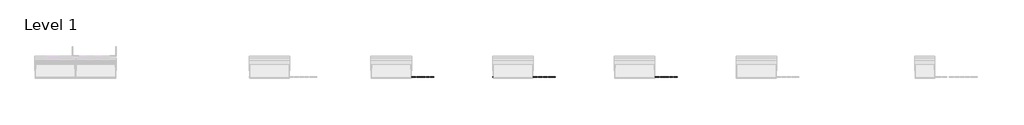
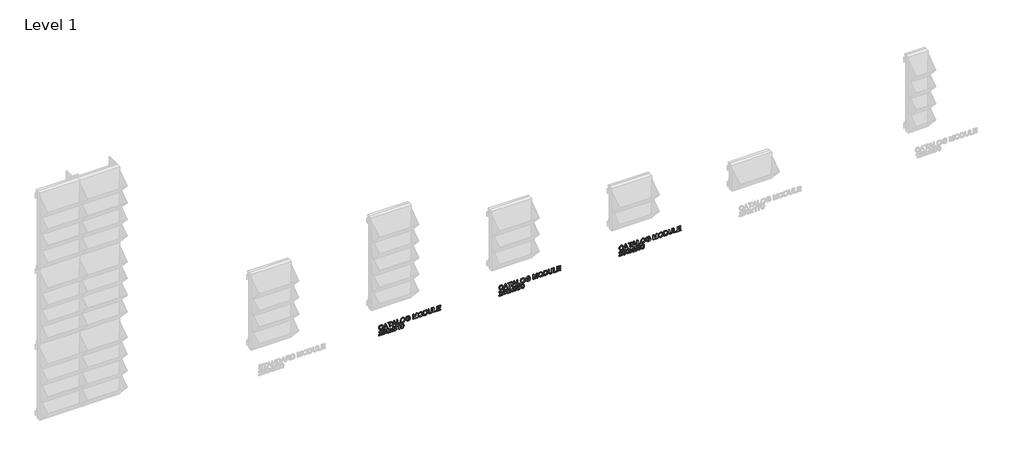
# One storey, part 3 of 5: 3 proxies.
"""IFC4 building model written with IfcOpenShell, lengths in millimetres."""

from ifc_helpers import new_model, si_unit, frame, origin, place, context, project, spatial, polyline, outline, extrude, element, save

model = new_model("IFC4")

# Units and contexts
model_context = context("Model", 3, world=origin())
ifc_project = project(units=[si_unit("LENGTHUNIT", "METRE", prefix="MILLI")], contexts=[model_context])

# Site, building, storey
site = spatial("IfcSite", under=ifc_project)
building = spatial("IfcBuilding", under=site)
storey = spatial("IfcBuildingStorey", under=building, Name="Level 1", Elevation=0.0)

# Proxies
placement = place(None, origin())
element("IfcBuildingElementProxy", 1, Name="30mm Arial", ObjectType="30mm Arial", at=placement, inside=storey, context=model_context, shape_type="SweptSolid", body=[
    extrude(outline(polyline([(-74.1059821, 12.4481325), (-79.6536426, 9.2512379), (-81.5224832, 3.4865271), (-80.1502833, -1.7116455), (-76.0042532, -5.2506703), (-69.5148148, -6.3874257), (-63.9156509, -5.4272537), (-59.5893586, -2.0979216), (-57.9780355, 3.7955479), (-59.4311694, 8.8870347), (-64.0628037, 11.9772435), (-63.1651716, 15.7443551), (-56.558011, 11.4879604), (-54.2109238, 3.9427007), (-56.0245821, -3.2972169), (-61.3331193, -8.3703096), (-69.5221725, -10.1545373), (-77.5787882, -8.5763236), (-83.3103897, -3.9777986), (-85.2895948, 3.8617667), (-82.6739538, 11.7491567), (-75.0771906, 16.2152441), (-74.1059821, 12.4481325)])), frame((0.0, -152.7156773, 0.0), z_axis=(0.0, 1.0, 0.0), x_axis=(0.0, 0.0, 1.0)), (0.0, 0.0, 1.0), 5.0),
    extrude(outline(polyline([(-84.8187058, 17.8854283), (-84.8187058, 21.8659115), (-75.4009268, 25.309287), (-75.4009268, 37.7216255), (-84.8187058, 41.1723586), (-84.8187058, 45.1528418), (-54.6818128, 33.1231006), (-54.6818128, 29.9151696), (-84.8187058, 17.8854283)]), holes=[polyline([(-71.6338151, 26.6925233), (-63.5771994, 29.6429369), (-58.4489244, 31.5191351), (-64.2246718, 33.6307777), (-71.6338151, 36.3457469), (-71.6338151, 26.6925233)])]), frame((0.0, -152.7156773, 0.0), z_axis=(0.0, 1.0, 0.0), x_axis=(0.0, 0.0, 1.0)), (0.0, 0.0, 1.0), 5.0),
    extrude(outline(polyline([(-84.8187058, 56.7116941), (-84.8187058, 60.4788057), (-58.4489244, 60.4788057), (-58.4489244, 70.3674738), (-54.6818128, 70.3674738), (-54.6818128, 46.8230261), (-58.4489244, 46.8230261), (-58.4489244, 56.7116941), (-84.8187058, 56.7116941)])), frame((0.0, -152.7156773, 0.0), z_axis=(0.0, 1.0, 0.0), x_axis=(0.0, 0.0, 1.0)), (0.0, 0.0, 1.0), 5.0),
    extrude(outline(polyline([(-84.8187058, 71.0958801), (-84.8187058, 75.0763633), (-75.4009268, 78.5197388), (-75.4009268, 90.9320773), (-84.8187058, 94.3828104), (-84.8187058, 98.3632936), (-54.6818128, 86.3335524), (-54.6818128, 83.1256214), (-84.8187058, 71.0958801)]), holes=[polyline([(-71.6338151, 79.9029751), (-63.5771994, 82.8533887), (-58.4489244, 84.7295869), (-64.2246718, 86.8412295), (-71.6338151, 89.5561986), (-71.6338151, 79.9029751)])]), frame((0.0, -152.7156773, 0.0), z_axis=(0.0, 1.0, 0.0), x_axis=(0.0, 0.0, 1.0)), (0.0, 0.0, 1.0), 5.0),
    extrude(outline(polyline([(-84.8187058, 102.3879226), (-84.8187058, 121.2234808), (-81.0515942, 121.2234808), (-81.0515942, 106.1550343), (-54.6818128, 106.1550343), (-54.6818128, 102.3879226), (-84.8187058, 102.3879226)])), frame((0.0, -152.7156773, 0.0), z_axis=(0.0, 1.0, 0.0), x_axis=(0.0, 0.0, 1.0)), (0.0, 0.0, 1.0), 5.0),
    extrude(outline(polyline([(-70.1475719, 124.0488145), (-77.6486858, 125.7705023), (-83.2404921, 130.8325585), (-85.2895948, 138.4109276), (-83.4354695, 145.7060276), (-77.9761007, 150.9299519), (-69.8017628, 152.7730407), (-61.7377895, 151.0219224), (-56.1974866, 145.9304356), (-54.2109238, 138.4330005), (-58.4415668, 128.0660859), (-70.1475719, 124.0488145)]), holes=[polyline([(-70.1843601, 127.8159261), (-60.7923327, 130.9576384), (-57.9780355, 138.4550734), (-59.438527, 143.9843398), (-63.5551265, 147.7256997), (-69.7723322, 149.0059291), (-78.461705, 146.0150484), (-81.5224832, 138.3888547), (-78.4911355, 130.8288797), (-70.1843601, 127.8159261)])]), frame((0.0, -152.7156773, 0.0), z_axis=(0.0, 1.0, 0.0), x_axis=(0.0, 0.0, 1.0)), (0.0, 0.0, 1.0), 5.0),
    extrude(outline(polyline([(-73.046482, 172.0794878), (-73.046482, 180.555489), (-78.4911355, 180.555489), (-80.5549535, 176.7405527), (-81.5224832, 171.5865259), (-80.238575, 165.843888), (-76.3095953, 161.7236096), (-69.7429017, 160.307264), (-63.8273592, 161.4844863), (-60.9247703, 163.4232245), (-58.7910547, 166.7047319), (-57.9780355, 171.5276648), (-58.7321936, 175.7619866), (-60.7408293, 178.6976849), (-64.2246718, 180.4156938), (-63.2461056, 183.8884998), (-58.2613046, 181.6113103), (-55.2814605, 177.4799955), (-54.2109238, 171.5865259), (-56.0576915, 163.6549901), (-61.7046801, 158.3758835), (-69.8974121, 156.5401523), (-77.909882, 158.3832411), (-83.3950025, 163.8426099), (-85.2895948, 171.8881892), (-84.0976571, 178.2782994), (-80.5439171, 184.3226006), (-69.2793704, 184.3226006), (-69.2793704, 172.0794878), (-73.046482, 172.0794878)])), frame((0.0, -152.7156773, 0.0), z_axis=(0.0, 1.0, 0.0), x_axis=(0.0, 0.0, 1.0)), (0.0, 0.0, 1.0), 5.0),
    extrude(outline(polyline([(-84.8187058, 202.2163808), (-84.8187058, 205.9834925), (-58.4489244, 205.9834925), (-84.8187058, 213.5545039), (-84.8187058, 218.660706), (-58.4489244, 226.2317175), (-84.8187058, 226.2317175), (-84.8187058, 229.9988291), (-54.6818128, 229.9988291), (-54.6818128, 223.5167484), (-75.5554372, 217.4540531), (-80.3599761, 216.107605), (-75.9233192, 214.8641638), (-54.6818128, 208.6984616), (-54.6818128, 202.2163808), (-84.8187058, 202.2163808)])), frame((0.0, -152.7156773, 0.0), z_axis=(0.0, 1.0, 0.0), x_axis=(0.0, 0.0, 1.0)), (0.0, 0.0, 1.0), 5.0),
    extrude(outline(polyline([(-70.1475719, 235.1786076), (-77.6486858, 236.9002954), (-83.2404921, 241.9623516), (-85.2895948, 249.5407207), (-83.4354695, 256.8358207), (-77.9761007, 262.059745), (-69.8017628, 263.9028338), (-61.7377895, 262.1517155), (-56.1974866, 257.0602287), (-54.2109238, 249.5627936), (-58.4415668, 239.195879), (-70.1475719, 235.1786076)]), holes=[polyline([(-70.1843601, 238.9457192), (-60.7923327, 242.0874315), (-57.9780355, 249.5848665), (-59.438527, 255.1141329), (-63.5551265, 258.8554928), (-69.7723322, 260.1357222), (-78.461705, 257.1448415), (-81.5224832, 249.5186478), (-78.4911355, 241.9586728), (-70.1843601, 238.9457192)])]), frame((0.0, -152.7156773, 0.0), z_axis=(0.0, 1.0, 0.0), x_axis=(0.0, 0.0, 1.0)), (0.0, 0.0, 1.0), 5.0),
    extrude(outline(polyline([(-84.8187058, 269.0826123), (-84.8187058, 279.979277), (-84.3036711, 284.8242829), (-82.7916761, 288.4258476), (-80.0583128, 291.1776049), (-75.6694806, 293.2377441), (-69.5883912, 294.0397268), (-62.42205, 292.8551468), (-57.271702, 289.2866915), (-55.1159136, 284.8573922), (-54.6818128, 279.4789575), (-54.6818128, 269.0826123), (-84.8187058, 269.0826123)]), holes=[polyline([(-81.0515942, 272.8497239), (-58.4489244, 272.8497239), (-58.4489244, 279.4127387), (-59.0522509, 284.7543853), (-62.3926194, 288.6649709), (-69.5295301, 290.2726152), (-75.2280222, 289.4522384), (-78.9693821, 287.1603335), (-80.5071289, 284.3644304), (-81.0515942, 279.5157457), (-81.0515942, 272.8497239)])]), frame((0.0, -152.7156773, 0.0), z_axis=(0.0, 1.0, 0.0), x_axis=(0.0, 0.0, 1.0)), (0.0, 0.0, 1.0), 5.0),
    extrude(outline(polyline([(-54.6818128, 318.9968414), (-71.9354784, 318.9968414), (-79.543278, 317.0912127), (-81.5224832, 310.7121389), (-80.5218441, 306.2828396), (-77.6781163, 303.7297386), (-71.9354784, 302.986617), (-54.6818128, 302.986617), (-54.6818128, 299.2195053), (-72.0679159, 299.2195053), (-79.6131756, 300.3636183), (-83.8327821, 304.1822335), (-85.2895948, 311.0653056), (-83.6157317, 318.0550635), (-79.2747242, 321.7412411), (-72.0679159, 322.763953), (-54.6818128, 322.763953), (-54.6818128, 318.9968414)])), frame((0.0, -152.7156773, 0.0), z_axis=(0.0, 1.0, 0.0), x_axis=(0.0, 0.0, 1.0)), (0.0, 0.0, 1.0), 5.0),
    extrude(outline(polyline([(-84.8187058, 329.3563984), (-84.8187058, 348.1919565), (-81.0515942, 348.1919565), (-81.0515942, 333.12351), (-54.6818128, 333.12351), (-54.6818128, 329.3563984), (-84.8187058, 329.3563984)])), frame((0.0, -152.7156773, 0.0), z_axis=(0.0, 1.0, 0.0), x_axis=(0.0, 0.0, 1.0)), (0.0, 0.0, 1.0), 5.0),
    extrude(outline(polyline([(-84.8187058, 352.4299571), (-84.8187058, 374.5617379), (-81.0515942, 374.5617379), (-81.0515942, 356.1970688), (-71.1629262, 356.1970688), (-71.1629262, 373.1490711), (-67.3958146, 373.1490711), (-67.3958146, 356.1970688), (-58.4489244, 356.1970688), (-58.4489244, 374.090849), (-54.6818128, 374.090849), (-54.6818128, 352.4299571), (-84.8187058, 352.4299571)])), frame((0.0, -152.7156773, 0.0), z_axis=(0.0, 1.0, 0.0), x_axis=(0.0, 0.0, 1.0)), (0.0, 0.0, 1.0), 5.0),
    extrude(outline(polyline([(-117.6440396, 9.1519098), (-117.6440396, -5.6443041), (-115.7273744, -3.9446892), (-112.1037367, 0.3889607), (-106.9423523, 5.7857895), (-103.2488171, 8.0114756), (-99.6766829, 8.6810208), (-93.687564, 6.1978174), (-91.2742582, -0.5454596), (-93.4447619, -7.2666637), (-99.7502593, -10.1545373), (-100.2211483, -6.3874257), (-96.4172484, -4.8018543), (-95.0413698, -0.6263937), (-96.4503578, 3.3798413), (-99.9047698, 4.9139092), (-104.1722009, 3.2878708), (-110.4482677, -3.2162829), (-114.815027, -7.9325301), (-118.8139043, -10.2207561), (-121.4111512, -10.6254263), (-121.4111512, 9.1519098), (-117.6440396, 9.1519098)])), frame((0.0, -152.7156773, 0.0), z_axis=(0.0, 1.0, 0.0), x_axis=(0.0, 0.0, 1.0)), (0.0, 0.0, 1.0), 5.0),
    extrude(outline(polyline([(-113.406039, 12.9190214), (-119.5607048, 15.8583986), (-121.8820402, 22.5060262), (-118.269439, 30.3345551), (-111.2796811, 32.6963575), (-104.334069, 30.0733588), (-101.6338151, 23.6317451), (-103.8116766, 18.1208728), (-95.5122587, 19.732196), (-95.5122587, 31.2836906), (-91.7451471, 31.2836906), (-91.7451471, 16.686133), (-107.2844826, 13.3899104), (-107.7553715, 17.157022), (-106.0557567, 19.2723435), (-105.4009268, 22.5796026), (-107.0416805, 27.3510321), (-111.5151255, 28.9292458), (-116.3086279, 27.2443463), (-118.1149285, 22.5207415), (-116.8163051, 18.5844041), (-112.93515, 16.686133), (-113.406039, 12.9190214)])), frame((0.0, -152.7156773, 0.0), z_axis=(0.0, 1.0, 0.0), x_axis=(0.0, 0.0, 1.0)), (0.0, 0.0, 1.0), 5.0),
    extrude(outline(polyline([(-106.5855068, 35.9925801), (-119.0125606, 38.9944972), (-121.8820402, 45.8812482), (-120.23025, 51.3957993), (-115.2196972, 54.6736279), (-106.5855068, 55.7699162), (-99.5037784, 55.0856557), (-95.0450486, 53.3198221), (-92.2454666, 50.2811168), (-91.2742582, 45.8812482), (-92.9150119, 40.38877), (-97.9145282, 37.099905), (-106.5855068, 35.9925801)]), holes=[polyline([(-106.5781492, 39.7596918), (-97.0573631, 41.5843865), (-95.0413698, 45.8371023), (-97.3295958, 50.2958321), (-106.5781492, 52.0028046), (-115.9260307, 50.236971), (-118.1149285, 45.8812482), (-115.9333883, 41.5255254), (-106.5781492, 39.7596918)])]), frame((0.0, -152.7156773, 0.0), z_axis=(0.0, 1.0, 0.0), x_axis=(0.0, 0.0, 1.0)), (0.0, 0.0, 1.0), 5.0),
    extrude(outline(polyline([(-121.4111512, 57.653472), (-121.4111512, 62.1857782), (-114.7230565, 68.7561506), (-121.4111512, 73.3693909), (-121.4111512, 77.901697), (-110.2863997, 70.2350363), (-99.2793704, 78.1960026), (-99.2793704, 73.6636965), (-105.0330448, 69.4992723), (-107.0784687, 68.0203866), (-104.5768711, 66.3134142), (-99.2793704, 62.6566672), (-99.2793704, 58.124361), (-110.2863997, 65.7027301), (-121.4111512, 57.653472)])), frame((0.0, -152.7156773, 0.0), z_axis=(0.0, 1.0, 0.0), x_axis=(0.0, 0.0, 1.0)), (0.0, 0.0, 1.0), 5.0),
    extrude(outline(polyline([(-99.2793704, 99.5625889), (-93.4006161, 96.781401), (-91.2742582, 90.8290703), (-94.710276, 83.0814755), (-107.3433437, 79.7852529), (-118.4975258, 82.7540606), (-121.8820402, 90.4317578), (-120.6054896, 95.3687342), (-116.9266697, 98.7900367), (-111.7284971, 100.0334779), (-104.7902427, 97.3920851), (-102.1047041, 90.9909384), (-103.086949, 86.8743389), (-106.0925449, 83.5523645), (-99.3786985, 84.6229011), (-95.9537171, 87.1943962), (-95.0413698, 90.5936259), (-96.6085471, 94.3680951), (-99.7502593, 95.7954773), (-99.2793704, 99.5625889)]), holes=[polyline([(-111.669636, 83.5523645), (-107.4721024, 85.4248838), (-105.8718157, 89.9829418), (-107.4721024, 94.5998608), (-111.853577, 96.2663662), (-116.430029, 94.5777879), (-118.1149285, 90.1374522), (-117.3019093, 86.7419014), (-114.9327493, 84.4242448), (-111.669636, 83.5523645)])]), frame((0.0, -152.7156773, 0.0), z_axis=(0.0, 1.0, 0.0), x_axis=(0.0, 0.0, 1.0)), (0.0, 0.0, 1.0), 5.0),
    extrude(outline(polyline([(-121.4111512, 117.4563692), (-91.2742582, 117.4563692), (-91.2742582, 115.028348), (-95.2841719, 111.676943), (-98.8084814, 106.1550343), (-102.3695791, 106.1550343), (-100.4676292, 110.1208022), (-97.9255646, 113.6892575), (-121.4111512, 113.6892575), (-121.4111512, 117.4563692)])), frame((0.0, -152.7156773, 0.0), z_axis=(0.0, 1.0, 0.0), x_axis=(0.0, 0.0, 1.0)), (0.0, 0.0, 1.0), 5.0),
    extrude(outline(polyline([(-106.5855068, 126.4032593), (-119.0125606, 129.4051764), (-121.8820402, 136.2919273), (-120.23025, 141.8064784), (-115.2196972, 145.084307), (-106.5855068, 146.1805953), (-99.5037784, 145.4963348), (-95.0450486, 143.7305013), (-92.2454666, 140.691796), (-91.2742582, 136.2919273), (-92.9150119, 130.7994491), (-97.9145282, 127.5105841), (-106.5855068, 126.4032593)]), holes=[polyline([(-106.5781492, 130.1703709), (-97.0573631, 131.9950656), (-95.0413698, 136.2477815), (-97.3295958, 140.7065113), (-106.5781492, 142.4134837), (-115.9260307, 140.6476501), (-118.1149285, 136.2919273), (-115.9333883, 131.9362045), (-106.5781492, 130.1703709)])]), frame((0.0, -152.7156773, 0.0), z_axis=(0.0, 1.0, 0.0), x_axis=(0.0, 0.0, 1.0)), (0.0, 0.0, 1.0), 5.0),
])
element("IfcBuildingElementProxy", 2, Name="30mm Arial", ObjectType="30mm Arial", at=placement, inside=storey, context=model_context, shape_type="SweptSolid", body=[
    extrude(outline(polyline([(-74.1059821, 762.4481325), (-79.6536426, 759.251238), (-81.5224832, 753.4865271), (-80.1502833, 748.2883545), (-76.0042532, 744.7493297), (-69.5148148, 743.6125744), (-63.9156509, 744.5727464), (-59.5893586, 747.9020784), (-57.9780355, 753.795548), (-59.4311694, 758.8870348), (-64.0628037, 761.9772436), (-63.1651716, 765.7443552), (-56.558011, 761.4879605), (-54.2109238, 753.9427008), (-56.0245821, 746.7027831), (-61.3331193, 741.6296904), (-69.5221725, 739.8454627), (-77.5787882, 741.4236765), (-83.3103897, 746.0222014), (-85.2895948, 753.8617668), (-82.6739538, 761.7491567), (-75.0771906, 766.2152442), (-74.1059821, 762.4481325)])), frame((0.0, -152.7156773, 0.0), z_axis=(0.0, 1.0, 0.0), x_axis=(0.0, 0.0, 1.0)), (0.0, 0.0, 1.0), 5.0),
    extrude(outline(polyline([(-84.8187058, 767.8854284), (-84.8187058, 771.8659116), (-75.4009268, 775.3092871), (-75.4009268, 787.7216256), (-84.8187058, 791.1723587), (-84.8187058, 795.1528419), (-54.6818128, 783.1231007), (-54.6818128, 779.9151697), (-84.8187058, 767.8854284)]), holes=[polyline([(-71.6338151, 776.6925234), (-63.5771994, 779.642937), (-58.4489244, 781.5191352), (-64.2246718, 783.6307778), (-71.6338151, 786.3457469), (-71.6338151, 776.6925234)])]), frame((0.0, -152.7156773, 0.0), z_axis=(0.0, 1.0, 0.0), x_axis=(0.0, 0.0, 1.0)), (0.0, 0.0, 1.0), 5.0),
    extrude(outline(polyline([(-84.8187058, 806.7116942), (-84.8187058, 810.4788058), (-58.4489244, 810.4788058), (-58.4489244, 820.3674739), (-54.6818128, 820.3674739), (-54.6818128, 796.8230262), (-58.4489244, 796.8230262), (-58.4489244, 806.7116942), (-84.8187058, 806.7116942)])), frame((0.0, -152.7156773, 0.0), z_axis=(0.0, 1.0, 0.0), x_axis=(0.0, 0.0, 1.0)), (0.0, 0.0, 1.0), 5.0),
    extrude(outline(polyline([(-84.8187058, 821.0958802), (-84.8187058, 825.0763634), (-75.4009268, 828.5197389), (-75.4009268, 840.9320774), (-84.8187058, 844.3828105), (-84.8187058, 848.3632937), (-54.6818128, 836.3335524), (-54.6818128, 833.1256214), (-84.8187058, 821.0958802)]), holes=[polyline([(-71.6338151, 829.9029752), (-63.5771994, 832.8533888), (-58.4489244, 834.7295869), (-64.2246718, 836.8412296), (-71.6338151, 839.5561987), (-71.6338151, 829.9029752)])]), frame((0.0, -152.7156773, 0.0), z_axis=(0.0, 1.0, 0.0), x_axis=(0.0, 0.0, 1.0)), (0.0, 0.0, 1.0), 5.0),
    extrude(outline(polyline([(-84.8187058, 852.3879227), (-84.8187058, 871.2234809), (-81.0515942, 871.2234809), (-81.0515942, 856.1550343), (-54.6818128, 856.1550343), (-54.6818128, 852.3879227), (-84.8187058, 852.3879227)])), frame((0.0, -152.7156773, 0.0), z_axis=(0.0, 1.0, 0.0), x_axis=(0.0, 0.0, 1.0)), (0.0, 0.0, 1.0), 5.0),
    extrude(outline(polyline([(-70.1475719, 874.0488146), (-77.6486858, 875.7705023), (-83.2404921, 880.8325586), (-85.2895948, 888.4109277), (-83.4354695, 895.7060276), (-77.9761007, 900.929952), (-69.8017628, 902.7730408), (-61.7377895, 901.0219225), (-56.1974866, 895.9304357), (-54.2109238, 888.4330006), (-58.4415668, 878.066086), (-70.1475719, 874.0488146)]), holes=[polyline([(-70.1843601, 877.8159262), (-60.7923327, 880.9576385), (-57.9780355, 888.4550735), (-59.438527, 893.9843399), (-63.5551265, 897.7256998), (-69.7723322, 899.0059291), (-78.461705, 896.0150485), (-81.5224832, 888.3888548), (-78.4911355, 880.8288798), (-70.1843601, 877.8159262)])]), frame((0.0, -152.7156773, 0.0), z_axis=(0.0, 1.0, 0.0), x_axis=(0.0, 0.0, 1.0)), (0.0, 0.0, 1.0), 5.0),
    extrude(outline(polyline([(-73.046482, 922.0794879), (-73.046482, 930.555489), (-78.4911355, 930.555489), (-80.5549535, 926.7405528), (-81.5224832, 921.586526), (-80.238575, 915.8438881), (-76.3095953, 911.7236097), (-69.7429017, 910.307264), (-63.8273592, 911.4844864), (-60.9247703, 913.4232245), (-58.7910547, 916.7047319), (-57.9780355, 921.5276649), (-58.7321936, 925.7619867), (-60.7408293, 928.697685), (-64.2246718, 930.4156939), (-63.2461056, 933.8884999), (-58.2613046, 931.6113104), (-55.2814605, 927.4799956), (-54.2109238, 921.586526), (-56.0576915, 913.6549902), (-61.7046801, 908.3758836), (-69.8974121, 906.5401524), (-77.909882, 908.3832412), (-83.3950025, 913.84261), (-85.2895948, 921.8881892), (-84.0976571, 928.2782995), (-80.5439171, 934.3226007), (-69.2793704, 934.3226007), (-69.2793704, 922.0794879), (-73.046482, 922.0794879)])), frame((0.0, -152.7156773, 0.0), z_axis=(0.0, 1.0, 0.0), x_axis=(0.0, 0.0, 1.0)), (0.0, 0.0, 1.0), 5.0),
    extrude(outline(polyline([(-84.8187058, 952.2163809), (-84.8187058, 955.9834926), (-58.4489244, 955.9834926), (-84.8187058, 963.554504), (-84.8187058, 968.6607061), (-58.4489244, 976.2317176), (-84.8187058, 976.2317176), (-84.8187058, 979.9988292), (-54.6818128, 979.9988292), (-54.6818128, 973.5167484), (-75.5554372, 967.4540532), (-80.3599761, 966.1076051), (-75.9233192, 964.8641639), (-54.6818128, 958.6984617), (-54.6818128, 952.2163809), (-84.8187058, 952.2163809)])), frame((0.0, -152.7156773, 0.0), z_axis=(0.0, 1.0, 0.0), x_axis=(0.0, 0.0, 1.0)), (0.0, 0.0, 1.0), 5.0),
    extrude(outline(polyline([(-70.1475719, 985.1786077), (-77.6486858, 986.9002954), (-83.2404921, 991.9623517), (-85.2895948, 999.5407208), (-83.4354695, 1006.8358207), (-77.9761007, 1012.0597451), (-69.8017628, 1013.9028339), (-61.7377895, 1012.1517156), (-56.1974866, 1007.0602288), (-54.2109238, 999.5627937), (-58.4415668, 989.1958791), (-70.1475719, 985.1786077)]), holes=[polyline([(-70.1843601, 988.9457193), (-60.7923327, 992.0874316), (-57.9780355, 999.5848666), (-59.438527, 1005.114133), (-63.5551265, 1008.8554929), (-69.7723322, 1010.1357222), (-78.461705, 1007.1448416), (-81.5224832, 999.5186479), (-78.4911355, 991.9586729), (-70.1843601, 988.9457193)])]), frame((0.0, -152.7156773, 0.0), z_axis=(0.0, 1.0, 0.0), x_axis=(0.0, 0.0, 1.0)), (0.0, 0.0, 1.0), 5.0),
    extrude(outline(polyline([(-84.8187058, 1019.0826124), (-84.8187058, 1029.9792771), (-84.3036711, 1034.8242829), (-82.7916761, 1038.4258477), (-80.0583128, 1041.177605), (-75.6694806, 1043.2377442), (-69.5883912, 1044.0397269), (-62.42205, 1042.8551469), (-57.271702, 1039.2866915), (-55.1159136, 1034.8573923), (-54.6818128, 1029.4789576), (-54.6818128, 1019.0826124), (-84.8187058, 1019.0826124)]), holes=[polyline([(-81.0515942, 1022.849724), (-58.4489244, 1022.849724), (-58.4489244, 1029.4127388), (-59.0522509, 1034.7543854), (-62.3926194, 1038.664971), (-69.5295301, 1040.2726153), (-75.2280222, 1039.4522384), (-78.9693821, 1037.1603336), (-80.5071289, 1034.3644304), (-81.0515942, 1029.5157458), (-81.0515942, 1022.849724)])]), frame((0.0, -152.7156773, 0.0), z_axis=(0.0, 1.0, 0.0), x_axis=(0.0, 0.0, 1.0)), (0.0, 0.0, 1.0), 5.0),
    extrude(outline(polyline([(-54.6818128, 1068.9968415), (-71.9354784, 1068.9968415), (-79.543278, 1067.0912127), (-81.5224832, 1060.7121389), (-80.5218441, 1056.2828397), (-77.6781163, 1053.7297387), (-71.9354784, 1052.986617), (-54.6818128, 1052.986617), (-54.6818128, 1049.2195054), (-72.0679159, 1049.2195054), (-79.6131756, 1050.3636184), (-83.8327821, 1054.1822335), (-85.2895948, 1061.0653057), (-83.6157317, 1068.0550636), (-79.2747242, 1071.7412412), (-72.0679159, 1072.7639531), (-54.6818128, 1072.7639531), (-54.6818128, 1068.9968415)])), frame((0.0, -152.7156773, 0.0), z_axis=(0.0, 1.0, 0.0), x_axis=(0.0, 0.0, 1.0)), (0.0, 0.0, 1.0), 5.0),
    extrude(outline(polyline([(-84.8187058, 1079.3563985), (-84.8187058, 1098.1919566), (-81.0515942, 1098.1919566), (-81.0515942, 1083.1235101), (-54.6818128, 1083.1235101), (-54.6818128, 1079.3563985), (-84.8187058, 1079.3563985)])), frame((0.0, -152.7156773, 0.0), z_axis=(0.0, 1.0, 0.0), x_axis=(0.0, 0.0, 1.0)), (0.0, 0.0, 1.0), 5.0),
    extrude(outline(polyline([(-84.8187058, 1102.4299572), (-84.8187058, 1124.561738), (-81.0515942, 1124.561738), (-81.0515942, 1106.1970688), (-71.1629262, 1106.1970688), (-71.1629262, 1123.1490712), (-67.3958146, 1123.1490712), (-67.3958146, 1106.1970688), (-58.4489244, 1106.1970688), (-58.4489244, 1124.0908491), (-54.6818128, 1124.0908491), (-54.6818128, 1102.4299572), (-84.8187058, 1102.4299572)])), frame((0.0, -152.7156773, 0.0), z_axis=(0.0, 1.0, 0.0), x_axis=(0.0, 0.0, 1.0)), (0.0, 0.0, 1.0), 5.0),
    extrude(outline(polyline([(-117.6440396, 759.1519099), (-117.6440396, 744.355696), (-115.7273744, 746.0553108), (-112.1037367, 750.3889607), (-106.9423523, 755.7857896), (-103.2488171, 758.0114757), (-99.6766829, 758.6810209), (-93.687564, 756.1978174), (-91.2742582, 749.4545405), (-93.4447619, 742.7333364), (-99.7502593, 739.8454627), (-100.2211483, 743.6125744), (-96.4172484, 745.1981458), (-95.0413698, 749.3736064), (-96.4503578, 753.3798414), (-99.9047698, 754.9139093), (-104.1722009, 753.2878709), (-110.4482677, 746.7837172), (-114.815027, 742.06747), (-118.8139043, 739.779244), (-121.4111512, 739.3745738), (-121.4111512, 759.1519099), (-117.6440396, 759.1519099)])), frame((0.0, -152.7156773, 0.0), z_axis=(0.0, 1.0, 0.0), x_axis=(0.0, 0.0, 1.0)), (0.0, 0.0, 1.0), 5.0),
    extrude(outline(polyline([(-113.406039, 762.9190215), (-119.5607048, 765.8583986), (-121.8820402, 772.5060263), (-118.269439, 780.3345551), (-111.2796811, 782.6963575), (-104.334069, 780.0733589), (-101.6338151, 773.6317452), (-103.8116766, 768.1208729), (-95.5122587, 769.732196), (-95.5122587, 781.2836907), (-91.7451471, 781.2836907), (-91.7451471, 766.6861331), (-107.2844826, 763.3899104), (-107.7553715, 767.1570221), (-106.0557567, 769.2723435), (-105.4009268, 772.5796027), (-107.0416805, 777.3510322), (-111.5151255, 778.9292459), (-116.3086279, 777.2443464), (-118.1149285, 772.5207416), (-116.8163051, 768.5844042), (-112.93515, 766.6861331), (-113.406039, 762.9190215)])), frame((0.0, -152.7156773, 0.0), z_axis=(0.0, 1.0, 0.0), x_axis=(0.0, 0.0, 1.0)), (0.0, 0.0, 1.0), 5.0),
    extrude(outline(polyline([(-106.5855068, 785.9925802), (-119.0125606, 788.9944973), (-121.8820402, 795.8812483), (-120.23025, 801.3957994), (-115.2196972, 804.6736279), (-106.5855068, 805.7699163), (-99.5037784, 805.0856558), (-95.0450486, 803.3198222), (-92.2454666, 800.2811169), (-91.2742582, 795.8812483), (-92.9150119, 790.3887701), (-97.9145282, 787.099905), (-106.5855068, 785.9925802)]), holes=[polyline([(-106.5781492, 789.7596919), (-97.0573631, 791.5843866), (-95.0413698, 795.8371024), (-97.3295958, 800.2958322), (-106.5781492, 802.0028047), (-115.9260307, 800.2369711), (-118.1149285, 795.8812483), (-115.9333883, 791.5255254), (-106.5781492, 789.7596919)])]), frame((0.0, -152.7156773, 0.0), z_axis=(0.0, 1.0, 0.0), x_axis=(0.0, 0.0, 1.0)), (0.0, 0.0, 1.0), 5.0),
    extrude(outline(polyline([(-121.4111512, 807.6534721), (-121.4111512, 812.1857783), (-114.7230565, 818.7561507), (-121.4111512, 823.3693909), (-121.4111512, 827.9016971), (-110.2863997, 820.2350363), (-99.2793704, 828.1960027), (-99.2793704, 823.6636965), (-105.0330448, 819.4992723), (-107.0784687, 818.0203867), (-104.5768711, 816.3134143), (-99.2793704, 812.6566672), (-99.2793704, 808.1243611), (-110.2863997, 815.7027302), (-121.4111512, 807.6534721)])), frame((0.0, -152.7156773, 0.0), z_axis=(0.0, 1.0, 0.0), x_axis=(0.0, 0.0, 1.0)), (0.0, 0.0, 1.0), 5.0),
    extrude(outline(polyline([(-113.406039, 830.2561419), (-119.5202377, 833.2507013), (-121.8820402, 839.857862), (-119.1155675, 847.1492831), (-112.3759694, 850.0334779), (-107.4757812, 848.5913805), (-104.9006073, 844.4858175), (-102.4063673, 847.5760262), (-98.9335613, 848.6208111), (-95.1333403, 847.5208439), (-92.3080066, 844.3423435), (-91.2742582, 839.7990008), (-93.3711855, 833.809882), (-99.2793704, 830.7270308), (-99.7502593, 834.4941425), (-96.2185922, 836.3409101), (-95.0413698, 839.9314384), (-96.2075557, 843.4778208), (-99.1542905, 844.8536995), (-102.4799437, 842.9554284), (-103.517371, 838.0773131), (-107.2844826, 837.6579276), (-106.8724548, 840.2993204), (-108.4138803, 844.5814668), (-112.3097506, 846.2663663), (-116.4447443, 844.5667515), (-118.1149285, 839.9902995), (-116.9009179, 836.1017868), (-112.93515, 834.0232535), (-113.406039, 830.2561419)])), frame((0.0, -152.7156773, 0.0), z_axis=(0.0, 1.0, 0.0), x_axis=(0.0, 0.0, 1.0)), (0.0, 0.0, 1.0), 5.0),
    extrude(outline(polyline([(-113.8769279, 853.8005896), (-119.781434, 856.5008434), (-121.8820402, 862.291306), (-120.1014913, 868.1075204), (-114.918034, 871.8488803), (-105.7688088, 873.1070367), (-97.3369534, 871.8452014), (-92.8487931, 868.1516662), (-91.2742582, 862.7842679), (-94.0333731, 856.0262756), (-101.3174366, 853.3297006), (-108.3734133, 855.9011958), (-111.0515942, 862.1956567), (-109.9553059, 866.3269715), (-107.8363056, 869.361998), (-112.2067437, 868.8175326), (-115.4808934, 867.5851279), (-117.3975586, 865.5176311), (-118.1149285, 862.4678894), (-117.0002461, 859.2599584), (-113.406039, 857.5677012), (-113.8769279, 853.8005896)]), holes=[polyline([(-101.2291449, 869.3399251), (-105.6768383, 867.6366314), (-107.2844826, 863.2919451), (-105.6768383, 858.7669965), (-101.5013776, 857.0968123), (-96.8403127, 858.8626458), (-95.0413698, 863.394952), (-96.711554, 867.7138866), (-101.2291449, 869.3399251)])]), frame((0.0, -152.7156773, 0.0), z_axis=(0.0, 1.0, 0.0), x_axis=(0.0, 0.0, 1.0)), (0.0, 0.0, 1.0), 5.0),
    extrude(outline(polyline([(-106.5855068, 876.4032594), (-119.0125606, 879.4051764), (-121.8820402, 886.2919274), (-120.23025, 891.8064785), (-115.2196972, 895.0843071), (-106.5855068, 896.1805954), (-99.5037784, 895.4963349), (-95.0450486, 893.7305013), (-92.2454666, 890.6917961), (-91.2742582, 886.2919274), (-92.9150119, 880.7994492), (-97.9145282, 877.5105842), (-106.5855068, 876.4032594)]), holes=[polyline([(-106.5781492, 880.170371), (-97.0573631, 881.9950657), (-95.0413698, 886.2477816), (-97.3295958, 890.7065113), (-106.5781492, 892.4134838), (-115.9260307, 890.6476502), (-118.1149285, 886.2919274), (-115.9333883, 881.9362046), (-106.5781492, 880.170371)])]), frame((0.0, -152.7156773, 0.0), z_axis=(0.0, 1.0, 0.0), x_axis=(0.0, 0.0, 1.0)), (0.0, 0.0, 1.0), 5.0),
])
element("IfcBuildingElementProxy", 3, Name="30mm Arial", ObjectType="30mm Arial", at=placement, inside=storey, context=model_context, shape_type="SweptSolid", body=[
    extrude(outline(polyline([(-74.1059821, 1512.4481326), (-79.6536426, 1509.2512381), (-81.5224832, 1503.4865272), (-80.1502833, 1498.2883546), (-76.0042532, 1494.7493298), (-69.5148148, 1493.6125745), (-63.9156509, 1494.5727465), (-59.5893586, 1497.9020785), (-57.9780355, 1503.7955481), (-59.4311694, 1508.8870349), (-64.0628037, 1511.9772437), (-63.1651716, 1515.7443553), (-56.558011, 1511.4879606), (-54.2109238, 1503.9427009), (-56.0245821, 1496.7027832), (-61.3331193, 1491.6296905), (-69.5221725, 1489.8454628), (-77.5787882, 1491.4236766), (-83.3103897, 1496.0222015), (-85.2895948, 1503.8617668), (-82.6739538, 1511.7491568), (-75.0771906, 1516.2152442), (-74.1059821, 1512.4481326)])), frame((0.0, -152.7156773, 0.0), z_axis=(0.0, 1.0, 0.0), x_axis=(0.0, 0.0, 1.0)), (0.0, 0.0, 1.0), 5.0),
    extrude(outline(polyline([(-84.8187058, 1517.8854285), (-84.8187058, 1521.8659117), (-75.4009268, 1525.3092872), (-75.4009268, 1537.7216257), (-84.8187058, 1541.1723588), (-84.8187058, 1545.152842), (-54.6818128, 1533.1231007), (-54.6818128, 1529.9151697), (-84.8187058, 1517.8854285)]), holes=[polyline([(-71.6338151, 1526.6925235), (-63.5771994, 1529.6429371), (-58.4489244, 1531.5191352), (-64.2246718, 1533.6307779), (-71.6338151, 1536.345747), (-71.6338151, 1526.6925235)])]), frame((0.0, -152.7156773, 0.0), z_axis=(0.0, 1.0, 0.0), x_axis=(0.0, 0.0, 1.0)), (0.0, 0.0, 1.0), 5.0),
    extrude(outline(polyline([(-84.8187058, 1556.7116943), (-84.8187058, 1560.4788059), (-58.4489244, 1560.4788059), (-58.4489244, 1570.3674739), (-54.6818128, 1570.3674739), (-54.6818128, 1546.8230262), (-58.4489244, 1546.8230262), (-58.4489244, 1556.7116943), (-84.8187058, 1556.7116943)])), frame((0.0, -152.7156773, 0.0), z_axis=(0.0, 1.0, 0.0), x_axis=(0.0, 0.0, 1.0)), (0.0, 0.0, 1.0), 5.0),
    extrude(outline(polyline([(-84.8187058, 1571.0958803), (-84.8187058, 1575.0763635), (-75.4009268, 1578.5197389), (-75.4009268, 1590.9320775), (-84.8187058, 1594.3828106), (-84.8187058, 1598.3632938), (-54.6818128, 1586.3335525), (-54.6818128, 1583.1256215), (-84.8187058, 1571.0958803)]), holes=[polyline([(-71.6338151, 1579.9029752), (-63.5771994, 1582.8533888), (-58.4489244, 1584.729587), (-64.2246718, 1586.8412297), (-71.6338151, 1589.5561988), (-71.6338151, 1579.9029752)])]), frame((0.0, -152.7156773, 0.0), z_axis=(0.0, 1.0, 0.0), x_axis=(0.0, 0.0, 1.0)), (0.0, 0.0, 1.0), 5.0),
    extrude(outline(polyline([(-84.8187058, 1602.3879228), (-84.8187058, 1621.2234809), (-81.0515942, 1621.2234809), (-81.0515942, 1606.1550344), (-54.6818128, 1606.1550344), (-54.6818128, 1602.3879228), (-84.8187058, 1602.3879228)])), frame((0.0, -152.7156773, 0.0), z_axis=(0.0, 1.0, 0.0), x_axis=(0.0, 0.0, 1.0)), (0.0, 0.0, 1.0), 5.0),
    extrude(outline(polyline([(-70.1475719, 1624.0488147), (-77.6486858, 1625.7705024), (-83.2404921, 1630.8325587), (-85.2895948, 1638.4109278), (-83.4354695, 1645.7060277), (-77.9761007, 1650.9299521), (-69.8017628, 1652.7730408), (-61.7377895, 1651.0219226), (-56.1974866, 1645.9304357), (-54.2109238, 1638.4330007), (-58.4415668, 1628.0660861), (-70.1475719, 1624.0488147)]), holes=[polyline([(-70.1843601, 1627.8159263), (-60.7923327, 1630.9576385), (-57.9780355, 1638.4550736), (-59.438527, 1643.98434), (-63.5551265, 1647.7256999), (-69.7723322, 1649.0059292), (-78.461705, 1646.0150486), (-81.5224832, 1638.3888548), (-78.4911355, 1630.8288798), (-70.1843601, 1627.8159263)])]), frame((0.0, -152.7156773, 0.0), z_axis=(0.0, 1.0, 0.0), x_axis=(0.0, 0.0, 1.0)), (0.0, 0.0, 1.0), 5.0),
    extrude(outline(polyline([(-73.046482, 1672.079488), (-73.046482, 1680.5554891), (-78.4911355, 1680.5554891), (-80.5549535, 1676.7405528), (-81.5224832, 1671.5865261), (-80.238575, 1665.8438881), (-76.3095953, 1661.7236098), (-69.7429017, 1660.3072641), (-63.8273592, 1661.4844865), (-60.9247703, 1663.4232246), (-58.7910547, 1666.704732), (-57.9780355, 1671.527665), (-58.7321936, 1675.7619867), (-60.7408293, 1678.697685), (-64.2246718, 1680.415694), (-63.2461056, 1683.8885), (-58.2613046, 1681.6113105), (-55.2814605, 1677.4799956), (-54.2109238, 1671.5865261), (-56.0576915, 1663.6549903), (-61.7046801, 1658.3758836), (-69.8974121, 1656.5401525), (-77.909882, 1658.3832413), (-83.3950025, 1663.8426101), (-85.2895948, 1671.8881893), (-84.0976571, 1678.2782996), (-80.5439171, 1684.3226008), (-69.2793704, 1684.3226008), (-69.2793704, 1672.079488), (-73.046482, 1672.079488)])), frame((0.0, -152.7156773, 0.0), z_axis=(0.0, 1.0, 0.0), x_axis=(0.0, 0.0, 1.0)), (0.0, 0.0, 1.0), 5.0),
    extrude(outline(polyline([(-84.8187058, 1702.216381), (-84.8187058, 1705.9834926), (-58.4489244, 1705.9834926), (-84.8187058, 1713.5545041), (-84.8187058, 1718.6607062), (-58.4489244, 1726.2317176), (-84.8187058, 1726.2317176), (-84.8187058, 1729.9988293), (-54.6818128, 1729.9988293), (-54.6818128, 1723.5167485), (-75.5554372, 1717.4540532), (-80.3599761, 1716.1076051), (-75.9233192, 1714.864164), (-54.6818128, 1708.6984618), (-54.6818128, 1702.216381), (-84.8187058, 1702.216381)])), frame((0.0, -152.7156773, 0.0), z_axis=(0.0, 1.0, 0.0), x_axis=(0.0, 0.0, 1.0)), (0.0, 0.0, 1.0), 5.0),
    extrude(outline(polyline([(-70.1475719, 1735.1786078), (-77.6486858, 1736.9002955), (-83.2404921, 1741.9623518), (-85.2895948, 1749.5407209), (-83.4354695, 1756.8358208), (-77.9761007, 1762.0597452), (-69.8017628, 1763.902834), (-61.7377895, 1762.1517157), (-56.1974866, 1757.0602288), (-54.2109238, 1749.5627938), (-58.4415668, 1739.1958792), (-70.1475719, 1735.1786078)]), holes=[polyline([(-70.1843601, 1738.9457194), (-60.7923327, 1742.0874316), (-57.9780355, 1749.5848667), (-59.438527, 1755.1141331), (-63.5551265, 1758.855493), (-69.7723322, 1760.1357223), (-78.461705, 1757.1448417), (-81.5224832, 1749.5186479), (-78.4911355, 1741.9586729), (-70.1843601, 1738.9457194)])]), frame((0.0, -152.7156773, 0.0), z_axis=(0.0, 1.0, 0.0), x_axis=(0.0, 0.0, 1.0)), (0.0, 0.0, 1.0), 5.0),
    extrude(outline(polyline([(-84.8187058, 1769.0826124), (-84.8187058, 1779.9792771), (-84.3036711, 1784.824283), (-82.7916761, 1788.4258478), (-80.0583128, 1791.1776051), (-75.6694806, 1793.2377442), (-69.5883912, 1794.039727), (-62.42205, 1792.855147), (-57.271702, 1789.2866916), (-55.1159136, 1784.8573924), (-54.6818128, 1779.4789576), (-54.6818128, 1769.0826124), (-84.8187058, 1769.0826124)]), holes=[polyline([(-81.0515942, 1772.8497241), (-58.4489244, 1772.8497241), (-58.4489244, 1779.4127389), (-59.0522509, 1784.7543854), (-62.3926194, 1788.664971), (-69.5295301, 1790.2726154), (-75.2280222, 1789.4522385), (-78.9693821, 1787.1603337), (-80.5071289, 1784.3644305), (-81.0515942, 1779.5157458), (-81.0515942, 1772.8497241)])]), frame((0.0, -152.7156773, 0.0), z_axis=(0.0, 1.0, 0.0), x_axis=(0.0, 0.0, 1.0)), (0.0, 0.0, 1.0), 5.0),
    extrude(outline(polyline([(-54.6818128, 1818.9968416), (-71.9354784, 1818.9968416), (-79.543278, 1817.0912128), (-81.5224832, 1810.712139), (-80.5218441, 1806.2828398), (-77.6781163, 1803.7297388), (-71.9354784, 1802.9866171), (-54.6818128, 1802.9866171), (-54.6818128, 1799.2195055), (-72.0679159, 1799.2195055), (-79.6131756, 1800.3636185), (-83.8327821, 1804.1822336), (-85.2895948, 1811.0653057), (-83.6157317, 1818.0550636), (-79.2747242, 1821.7412412), (-72.0679159, 1822.7639532), (-54.6818128, 1822.7639532), (-54.6818128, 1818.9968416)])), frame((0.0, -152.7156773, 0.0), z_axis=(0.0, 1.0, 0.0), x_axis=(0.0, 0.0, 1.0)), (0.0, 0.0, 1.0), 5.0),
    extrude(outline(polyline([(-84.8187058, 1829.3563985), (-84.8187058, 1848.1919567), (-81.0515942, 1848.1919567), (-81.0515942, 1833.1235102), (-54.6818128, 1833.1235102), (-54.6818128, 1829.3563985), (-84.8187058, 1829.3563985)])), frame((0.0, -152.7156773, 0.0), z_axis=(0.0, 1.0, 0.0), x_axis=(0.0, 0.0, 1.0)), (0.0, 0.0, 1.0), 5.0),
    extrude(outline(polyline([(-84.8187058, 1852.4299573), (-84.8187058, 1874.5617381), (-81.0515942, 1874.5617381), (-81.0515942, 1856.1970689), (-71.1629262, 1856.1970689), (-71.1629262, 1873.1490712), (-67.3958146, 1873.1490712), (-67.3958146, 1856.1970689), (-58.4489244, 1856.1970689), (-58.4489244, 1874.0908491), (-54.6818128, 1874.0908491), (-54.6818128, 1852.4299573), (-84.8187058, 1852.4299573)])), frame((0.0, -152.7156773, 0.0), z_axis=(0.0, 1.0, 0.0), x_axis=(0.0, 0.0, 1.0)), (0.0, 0.0, 1.0), 5.0),
    extrude(outline(polyline([(-117.6440396, 1509.1519099), (-117.6440396, 1494.3556961), (-115.7273744, 1496.0553109), (-112.1037367, 1500.3889608), (-106.9423523, 1505.7857897), (-103.2488171, 1508.0114757), (-99.6766829, 1508.681021), (-93.687564, 1506.1978175), (-91.2742582, 1499.4545405), (-93.4447619, 1492.7333365), (-99.7502593, 1489.8454628), (-100.2211483, 1493.6125745), (-96.4172484, 1495.1981459), (-95.0413698, 1499.3736065), (-96.4503578, 1503.3798414), (-99.9047698, 1504.9139093), (-104.1722009, 1503.2878709), (-110.4482677, 1496.7837173), (-114.815027, 1492.0674701), (-118.8139043, 1489.7792441), (-121.4111512, 1489.3745739), (-121.4111512, 1509.1519099), (-117.6440396, 1509.1519099)])), frame((0.0, -152.7156773, 0.0), z_axis=(0.0, 1.0, 0.0), x_axis=(0.0, 0.0, 1.0)), (0.0, 0.0, 1.0), 5.0),
    extrude(outline(polyline([(-113.406039, 1512.9190216), (-119.5607048, 1515.8583987), (-121.8820402, 1522.5060264), (-118.269439, 1530.3345552), (-111.2796811, 1532.6963576), (-104.334069, 1530.073359), (-101.6338151, 1523.6317453), (-103.8116766, 1518.120873), (-95.5122587, 1519.7321961), (-95.5122587, 1531.2836908), (-91.7451471, 1531.2836908), (-91.7451471, 1516.6861332), (-107.2844826, 1513.3899105), (-107.7553715, 1517.1570221), (-106.0557567, 1519.2723436), (-105.4009268, 1522.5796028), (-107.0416805, 1527.3510322), (-111.5151255, 1528.929246), (-116.3086279, 1527.2443465), (-118.1149285, 1522.5207416), (-116.8163051, 1518.5844043), (-112.93515, 1516.6861332), (-113.406039, 1512.9190216)])), frame((0.0, -152.7156773, 0.0), z_axis=(0.0, 1.0, 0.0), x_axis=(0.0, 0.0, 1.0)), (0.0, 0.0, 1.0), 5.0),
    extrude(outline(polyline([(-106.5855068, 1535.9925803), (-119.0125606, 1538.9944974), (-121.8820402, 1545.8812483), (-120.23025, 1551.3957994), (-115.2196972, 1554.673628), (-106.5855068, 1555.7699164), (-99.5037784, 1555.0856559), (-95.0450486, 1553.3198223), (-92.2454666, 1550.281117), (-91.2742582, 1545.8812483), (-92.9150119, 1540.3887701), (-97.9145282, 1537.0999051), (-106.5855068, 1535.9925803)]), holes=[polyline([(-106.5781492, 1539.7596919), (-97.0573631, 1541.5843866), (-95.0413698, 1545.8371025), (-97.3295958, 1550.2958323), (-106.5781492, 1552.0028047), (-115.9260307, 1550.2369712), (-118.1149285, 1545.8812483), (-115.9333883, 1541.5255255), (-106.5781492, 1539.7596919)])]), frame((0.0, -152.7156773, 0.0), z_axis=(0.0, 1.0, 0.0), x_axis=(0.0, 0.0, 1.0)), (0.0, 0.0, 1.0), 5.0),
    extrude(outline(polyline([(-121.4111512, 1557.6534722), (-121.4111512, 1562.1857784), (-114.7230565, 1568.7561508), (-121.4111512, 1573.369391), (-121.4111512, 1577.9016972), (-110.2863997, 1570.2350364), (-99.2793704, 1578.1960028), (-99.2793704, 1573.6636966), (-105.0330448, 1569.4992724), (-107.0784687, 1568.0203868), (-104.5768711, 1566.3134143), (-99.2793704, 1562.6566673), (-99.2793704, 1558.1243611), (-110.2863997, 1565.7027302), (-121.4111512, 1557.6534722)])), frame((0.0, -152.7156773, 0.0), z_axis=(0.0, 1.0, 0.0), x_axis=(0.0, 0.0, 1.0)), (0.0, 0.0, 1.0), 5.0),
    extrude(outline(polyline([(-117.6440396, 1599.5625891), (-117.6440396, 1584.7663752), (-115.7273744, 1586.46599), (-112.1037367, 1590.7996399), (-106.9423523, 1596.1964688), (-103.2488171, 1598.4221549), (-99.6766829, 1599.0917001), (-93.687564, 1596.6084966), (-91.2742582, 1589.8652197), (-93.4447619, 1583.1440156), (-99.7502593, 1580.256142), (-100.2211483, 1584.0232536), (-96.4172484, 1585.608825), (-95.0413698, 1589.7842856), (-96.4503578, 1593.7905206), (-99.9047698, 1595.3245885), (-104.1722009, 1593.6985501), (-110.4482677, 1587.1943964), (-114.815027, 1582.4781492), (-118.8139043, 1580.1899232), (-121.4111512, 1579.785253), (-121.4111512, 1599.5625891), (-117.6440396, 1599.5625891)])), frame((0.0, -152.7156773, 0.0), z_axis=(0.0, 1.0, 0.0), x_axis=(0.0, 0.0, 1.0)), (0.0, 0.0, 1.0), 5.0),
    extrude(outline(polyline([(-104.8123156, 1608.8185001), (-107.5493576, 1604.7570828), (-112.5378375, 1603.3297007), (-119.207538, 1606.0520275), (-121.8820402, 1613.2183687), (-119.2185745, 1620.38471), (-112.6408444, 1623.1070368), (-107.766408, 1621.7348369), (-104.8123156, 1617.728602), (-102.4836225, 1621.0652917), (-98.9335613, 1622.1652589), (-93.503623, 1619.6930918), (-91.2742582, 1613.1668652), (-93.4521196, 1606.6994998), (-98.8305543, 1604.2714786), (-102.4725861, 1605.3861611), (-104.8123156, 1608.8185001)]), holes=[polyline([(-98.9409189, 1608.0385902), (-96.1891616, 1609.3960748), (-95.0413698, 1613.2183687), (-96.2149133, 1617.0296262), (-99.1101447, 1618.3981472), (-101.9060478, 1617.073772), (-103.046482, 1613.2625146), (-101.8986902, 1609.3740019), (-98.9409189, 1608.0385902)]), polyline([(-112.4054, 1607.0968123), (-108.4102015, 1608.6897414), (-106.8135936, 1613.1227194), (-108.4322744, 1617.6844561), (-112.5231222, 1619.3399251), (-116.5367148, 1617.7359596), (-118.1149285, 1613.2477993), (-117.3644493, 1609.9515766), (-115.2417701, 1607.7258905), (-112.4054, 1607.0968123)])]), frame((0.0, -152.7156773, 0.0), z_axis=(0.0, 1.0, 0.0), x_axis=(0.0, 0.0, 1.0)), (0.0, 0.0, 1.0), 5.0),
    extrude(outline(polyline([(-106.5855068, 1626.4032594), (-119.0125606, 1629.4051765), (-121.8820402, 1636.2919275), (-120.23025, 1641.8064786), (-115.2196972, 1645.0843072), (-106.5855068, 1646.1805955), (-99.5037784, 1645.496335), (-95.0450486, 1643.7305014), (-92.2454666, 1640.6917961), (-91.2742582, 1636.2919275), (-92.9150119, 1630.7994493), (-97.9145282, 1627.5105842), (-106.5855068, 1626.4032594)]), holes=[polyline([(-106.5781492, 1630.1703711), (-97.0573631, 1631.9950658), (-95.0413698, 1636.2477816), (-97.3295958, 1640.7065114), (-106.5781492, 1642.4134839), (-115.9260307, 1640.6476503), (-118.1149285, 1636.2919275), (-115.9333883, 1631.9362046), (-106.5781492, 1630.1703711)])]), frame((0.0, -152.7156773, 0.0), z_axis=(0.0, 1.0, 0.0), x_axis=(0.0, 0.0, 1.0)), (0.0, 0.0, 1.0), 5.0),
])

save(model, "model.ifc")
